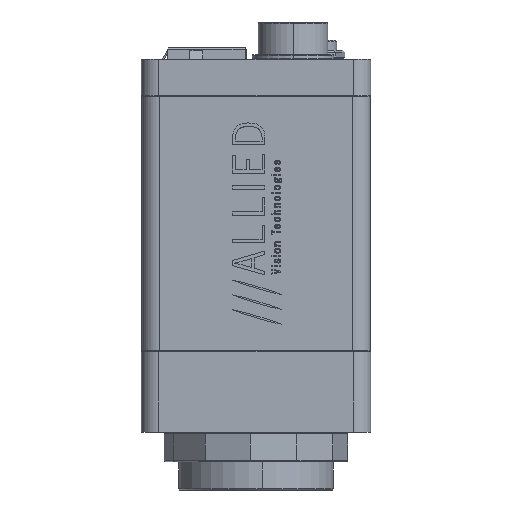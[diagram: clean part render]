
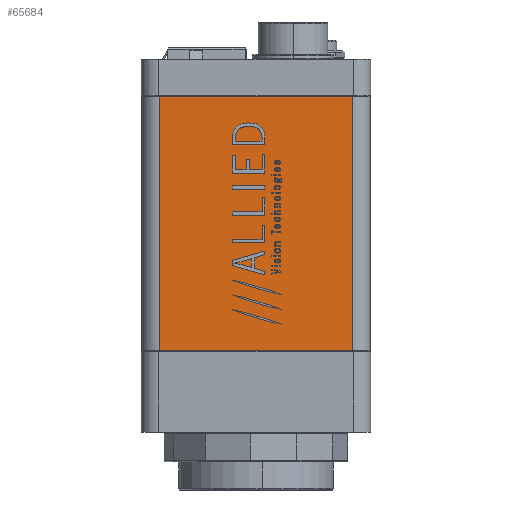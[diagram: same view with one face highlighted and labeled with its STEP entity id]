
A CAD part, left-side view. The second image highlights one B-rep face of the part: STEP entity #65684.
In plain terms, the highlighted planar face has unit normal (-1, 0, 0).
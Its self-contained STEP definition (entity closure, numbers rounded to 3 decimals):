
#13995 = VECTOR ( 'NONE', #145395, 1000. ) ;
#16556 = ORIENTED_EDGE ( 'NONE', *, *, #85351, .F. ) ;
#30870 = ORIENTED_EDGE ( 'NONE', *, *, #163244, .T. ) ;
#44183 = CARTESIAN_POINT ( 'NONE',  ( -25.714, -16.558, 43.65 ) ) ;
#55110 = ORIENTED_EDGE ( 'NONE', *, *, #122688, .F. ) ;
#55924 = LINE ( 'NONE', #146719, #13995 ) ;
#62549 = VERTEX_POINT ( 'NONE', #88203 ) ;
#62930 = CARTESIAN_POINT ( 'NONE',  ( -25.714, -16.558, 108.336 ) ) ;
#63481 = EDGE_CURVE ( 'NONE', #196129, #62549, #137148, .T. ) ;
#64856 = CARTESIAN_POINT ( 'NONE',  ( -25.714, -16.558, 0. ) ) ;
#65684 = ADVANCED_FACE ( 'NONE', ( #113938 ), #143515, .T. ) ;
#74049 = AXIS2_PLACEMENT_3D ( 'NONE', #141365, #141133, #141088 ) ;
#75630 = LINE ( 'NONE', #62930, #153008 ) ;
#78666 = DIRECTION ( 'NONE',  ( 0., 0., 1. ) ) ;
#85351 = EDGE_CURVE ( 'NONE', #103530, #196129, #55924, .T. ) ;
#88203 = CARTESIAN_POINT ( 'NONE',  ( -25.714, 16.558, 43.65 ) ) ;
#99404 = DIRECTION ( 'NONE',  ( 0., -1., 0. ) ) ;
#100895 = VECTOR ( 'NONE', #188253, 1000. ) ;
#103530 = VERTEX_POINT ( 'NONE', #64856 ) ;
#113938 = FACE_OUTER_BOUND ( 'NONE', #178301, .T. ) ;
#122688 = EDGE_CURVE ( 'NONE', #62549, #178350, #126471, .T. ) ;
#126471 = LINE ( 'NONE', #131829, #162428 ) ;
#131829 = CARTESIAN_POINT ( 'NONE',  ( -25.714, 16.558, 43.65 ) ) ;
#137148 = LINE ( 'NONE', #196107, #100895 ) ;
#141088 = DIRECTION ( 'NONE',  ( 0., 0., 1. ) ) ;
#141133 = DIRECTION ( 'NONE',  ( -1., 0., 0. ) ) ;
#141365 = CARTESIAN_POINT ( 'NONE',  ( -25.714, 16.558, 108.336 ) ) ;
#143515 = PLANE ( 'NONE',  #74049 ) ;
#145395 = DIRECTION ( 'NONE',  ( 0., 1., 0. ) ) ;
#146719 = CARTESIAN_POINT ( 'NONE',  ( -25.714, -16.558, 0. ) ) ;
#148661 = CARTESIAN_POINT ( 'NONE',  ( -25.714, 16.558, 0. ) ) ;
#153008 = VECTOR ( 'NONE', #78666, 1000. ) ;
#154139 = ORIENTED_EDGE ( 'NONE', *, *, #63481, .F. ) ;
#162428 = VECTOR ( 'NONE', #99404, 1000. ) ;
#163244 = EDGE_CURVE ( 'NONE', #103530, #178350, #75630, .T. ) ;
#178301 = EDGE_LOOP ( 'NONE', ( #154139, #16556, #30870, #55110 ) ) ;
#178350 = VERTEX_POINT ( 'NONE', #44183 ) ;
#188253 = DIRECTION ( 'NONE',  ( 0., 0., 1. ) ) ;
#196107 = CARTESIAN_POINT ( 'NONE',  ( -25.714, 16.558, 108.336 ) ) ;
#196129 = VERTEX_POINT ( 'NONE', #148661 ) ;
